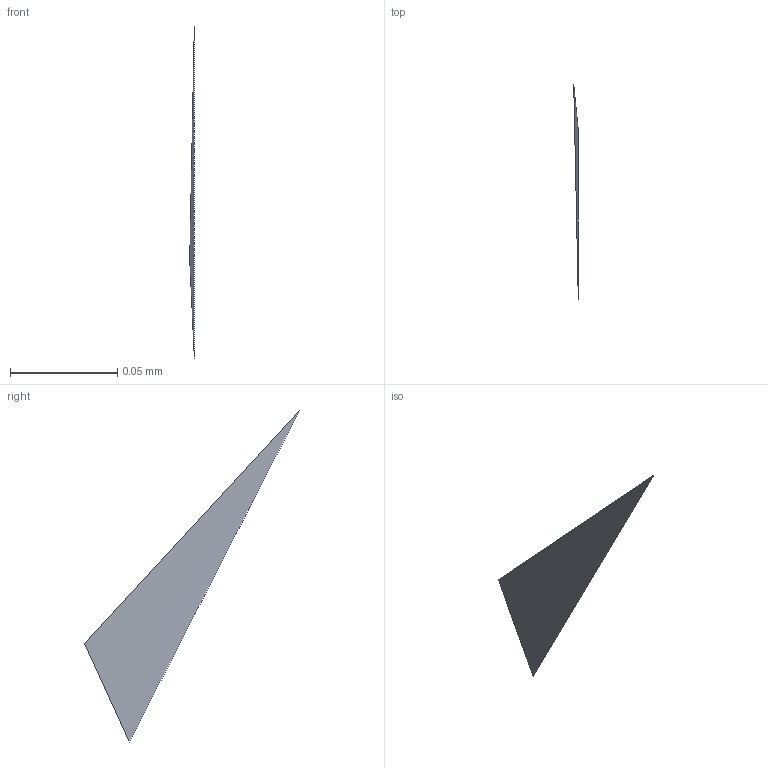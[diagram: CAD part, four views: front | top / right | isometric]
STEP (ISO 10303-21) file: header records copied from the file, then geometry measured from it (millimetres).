
FILE_DESCRIPTION(/* description */ ('STEP AP242 Edition 2','CAx-IF Rec.Pracs.---Representation and Presentation of Product Manufacturing Information (PMI)---4.0---2014-10-13','CAx-IF Rec.Pracs.---3D Tessellated Geometry---0.4---2014-09-14','2;1','CAx-IF Rec.Pracs.---User Defined Attributes---1.5---2016-08-15'),/* implementation_level */ '2;1');
FILE_NAME(/* name */ 'Assembly 1 - Part 4',/* time_stamp */ '2026-03-29T21:14:57Z',/* author */ (''),/* organization */ (''),/* preprocessor_version */ 'ST-DEVELOPER v20',/* originating_system */ 'ONSHAPE BY PTC INC, 1.212',/* authorisation */ ' ');
FILE_SCHEMA (('AP242_MANAGED_MODEL_BASED_3D_ENGINEERING_MIM_LF { 1 0 10303 442 3 1 4 }'));
Length unit declared in the file: metre
Products named in the file (1): Part 4
Bounding box: 0 x 0.1 x 0.15 mm (x, y, z)
Surface area: 0 mm2 (no closed solid volume)
Topology: 0 solids, 1 shells, 1 faces, 0 edges, 0 vertices
Faces by surface type: other 1
Entity records: 31 total; most frequent: DIRECTION 2, SHAPE_REPRESENTATION_RELATIONSHIP 1, TESSELLATED_SHAPE_REPRESENTATION 1, STYLED_ITEM 1, PRESENTATION_STYLE_ASSIGNMENT 1, SURFACE_STYLE_USAGE 1, SURFACE_SIDE_STYLE 1, SURFACE_STYLE_FILL_AREA 1
